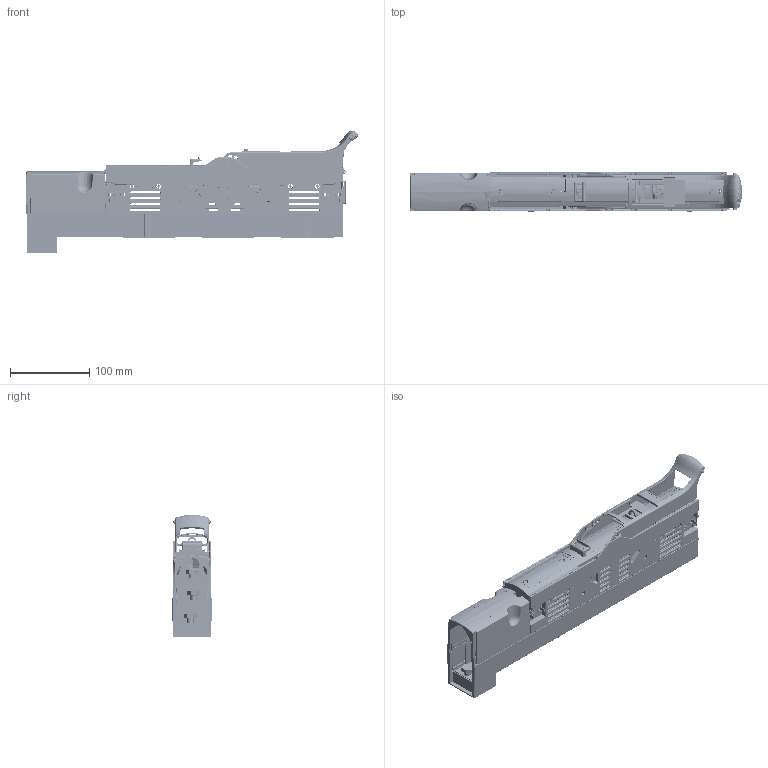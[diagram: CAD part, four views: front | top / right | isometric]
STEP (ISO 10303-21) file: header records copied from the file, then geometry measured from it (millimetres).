
FILE_DESCRIPTION (( 'STEP AP214' ), '1' );
FILE_NAME ('FSD00-33K-FC__2.step', '2014-11-13T09:08:48', ( '' ), ( '' ), 'SwSTEP 2.0', 'SolidWorks 2011', '' );
FILE_SCHEMA (( 'AUTOMOTIVE_DESIGN' ));
Length unit declared in the file: millimetre
Products named in the file (1): FSD00-33K-FC__2
Bounding box: 419.14 x 49.8 x 154.65 mm (x, y, z)
Volume: 440489.4 mm3; surface area: 504597.4 mm2
Topology: 21 solids, 21 shells, 9914 faces, 26837 edges, 16725 vertices
Faces by surface type: plane 4417, cylinder 2807, cone 968, torus 824, bspline 662, sphere 236
Entity records: 472878 total; most frequent: CARTESIAN_POINT 129581, ORIENTED_EDGE 53072, DIRECTION 43167, EDGE_CURVE 26536, VERTEX_POINT 16627, LINE 15511, VECTOR 15511, AXIS2_PLACEMENT_3D 13828
